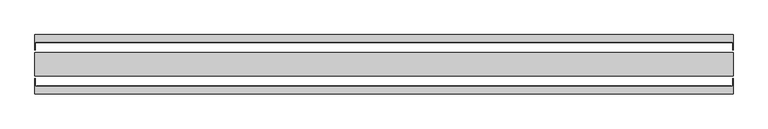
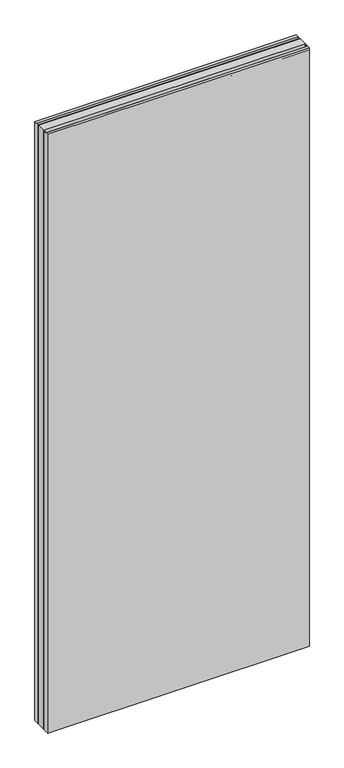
"""IFC4 building model written with IfcOpenShell, lengths in millimetres: plate geometry, 22_IM_VNS_wandpaneel_dicht : 22_IM_VNS_54_AA."""

from ifc_helpers import new_model, si_unit, frame, origin, origin_with_axes, place, context, project, spatial, polyline, outline, extrude, faceted_brep, source, transform, mapped, element, save


def plate_2d0721b2(model_context):
    return source(origin(), model_context, "Body", "SolidModel", [
        faceted_brep([(-600.0, 24.5, 2902.0), (-599.0, 24.5, 2902.0), (-599.0, 38.0, 2902.0), (599.0, 38.0, 2902.0), (599.0, 24.5, 2902.0), (600.0, 24.5, 2902.0), (600.0, 51.0, 2902.0), (-600.0, 51.0, 2902.0), (-600.0, 51.0, 0.0), (600.0, 51.0, 0.0), (600.0, 24.5, 0.0), (599.0, 24.5, 0.0), (599.0, 38.0, 0.0), (-599.0, 38.0, 0.0), (-599.0, 24.5, 0.0), (-600.0, 24.5, 0.0), (-599.0, 38.0, 9.9865245), (-599.0, 39.0, 9.9865245), (-599.0, 39.0, 0.9865245), (-599.0, 50.0, 0.9865245), (-599.0, 50.0, 2901.0134755), (-599.0, 39.0, 2901.0134755), (-599.0, 39.0, 2892.0134755), (-599.0, 38.0, 2892.0134755), (599.0, 50.0, 0.9865245), (599.0, 50.0, 2901.0134755), (599.0, 38.0, 2892.0134755), (599.0, 39.0, 2892.0134755), (599.0, 39.0, 2901.0134755), (599.0, 39.0, 0.9865245), (599.0, 39.0, 9.9865245), (599.0, 38.0, 9.9865245)], [[[0, 1, 2, 3, 4, 5, 6, 7]], [[8, 9, 10, 11, 12, 13, 14, 15]], [[1, 0, 15, 14]], [[1, 14, 13, 16, 17, 18, 19, 20, 21, 22, 23, 2]], [[20, 19, 24, 25]], [[11, 4, 3, 26, 27, 28, 25, 24, 29, 30, 31, 12]], [[5, 4, 11, 10]], [[6, 5, 10, 9]], [[7, 6, 9, 8]], [[8, 15, 0, 7]], [[3, 2, 23, 26]], [[26, 23, 22, 27]], [[27, 22, 21, 28]], [[28, 21, 20, 25]], [[18, 29, 24, 19]], [[29, 18, 17, 30]], [[30, 17, 16, 31]], [[13, 12, 31, 16]]]),
        faceted_brep([(-600.0, -51.0, 2902.0), (600.0, -51.0, 2902.0), (600.0, -24.5, 2902.0), (599.0, -24.5, 2902.0), (599.0, -38.0, 2902.0), (-599.0, -38.0, 2902.0), (-599.0, -24.5, 2902.0), (-600.0, -24.5, 2902.0), (-600.0, -24.5, 0.0), (-599.0, -24.5, 0.0), (-599.0, -38.0, 0.0), (599.0, -38.0, 0.0), (599.0, -24.5, 0.0), (600.0, -24.5, 0.0), (600.0, -51.0, 0.0), (-600.0, -51.0, 0.0), (599.0, -38.0, 9.9865245), (599.0, -39.0, 9.9865245), (599.0, -39.0, 0.9865245), (599.0, -50.0, 0.9865245), (599.0, -50.0, 2901.0134755), (599.0, -39.0, 2901.0134755), (599.0, -39.0, 2892.0134755), (599.0, -38.0, 2892.0134755), (-599.0, -50.0, 0.9865245), (-599.0, -50.0, 2901.0134755), (-599.0, -38.0, 2892.0134755), (-599.0, -39.0, 2892.0134755), (-599.0, -39.0, 2901.0134755), (-599.0, -39.0, 0.9865245), (-599.0, -39.0, 9.9865245), (-599.0, -38.0, 9.9865245)], [[[0, 1, 2, 3, 4, 5, 6, 7]], [[8, 9, 10, 11, 12, 13, 14, 15]], [[0, 7, 8, 15]], [[1, 0, 15, 14]], [[2, 1, 14, 13]], [[3, 2, 13, 12]], [[3, 12, 11, 16, 17, 18, 19, 20, 21, 22, 23, 4]], [[20, 19, 24, 25]], [[9, 6, 5, 26, 27, 28, 25, 24, 29, 30, 31, 10]], [[7, 6, 9, 8]], [[28, 21, 20, 25]], [[21, 28, 27, 22]], [[22, 27, 26, 23]], [[5, 4, 23, 26]], [[11, 10, 31, 16]], [[16, 31, 30, 17]], [[17, 30, 29, 18]], [[18, 29, 24, 19]]]),
        extrude(outline(polyline([(600.0, 20.0), (600.0, -20.0), (-600.0, -20.0), (-600.0, 20.0), (600.0, 20.0)])), origin_with_axes(), (0.0, 0.0, 1.0), 2902.0),
        extrude(outline(polyline([(597.0, 50.0), (597.0, 37.5), (-597.0, 37.5), (-597.0, 50.0), (597.0, 50.0)])), frame((0.0, 0.0, 11.0), z_axis=(0.0, 0.0, 1.0), x_axis=(1.0, 0.0, 0.0)), (0.0, 0.0, 1.0), 2880.0),
        extrude(outline(polyline([(-597.0, -37.5), (597.0, -37.5), (597.0, -50.0), (-597.0, -50.0), (-597.0, -37.5)])), frame((0.0, 0.0, 11.0), z_axis=(0.0, 0.0, 1.0), x_axis=(1.0, 0.0, 0.0)), (0.0, 0.0, 1.0), 2880.0),
    ])


if __name__ == "__main__":
    model = new_model("IFC4")
    model_context = context("Model", 3, world=origin())
    ifc_project = project(units=[si_unit("LENGTHUNIT", "METRE", prefix="MILLI")], contexts=[model_context])
    site = spatial("IfcSite", under=ifc_project)
    building = spatial("IfcBuilding", under=site)
    placement = place(None, origin())
    plate_shape = plate_2d0721b2(model_context)
    element("IfcPlate", 1, ObjectType="22_IM_VNS_wandpaneel_dicht : 22_IM_VNS_54_AA", at=placement, inside=building, context=model_context, shape_type="MappedRepresentation", body=[
        mapped(plate_shape, transform((0.0, 0.0, 0.0), x_axis=(1.0, 0.0, 0.0), y_axis=(0.0, 1.0, 0.0), z_axis=(0.0, 0.0, 1.0))),
    ])
    save(model, "model.ifc")
